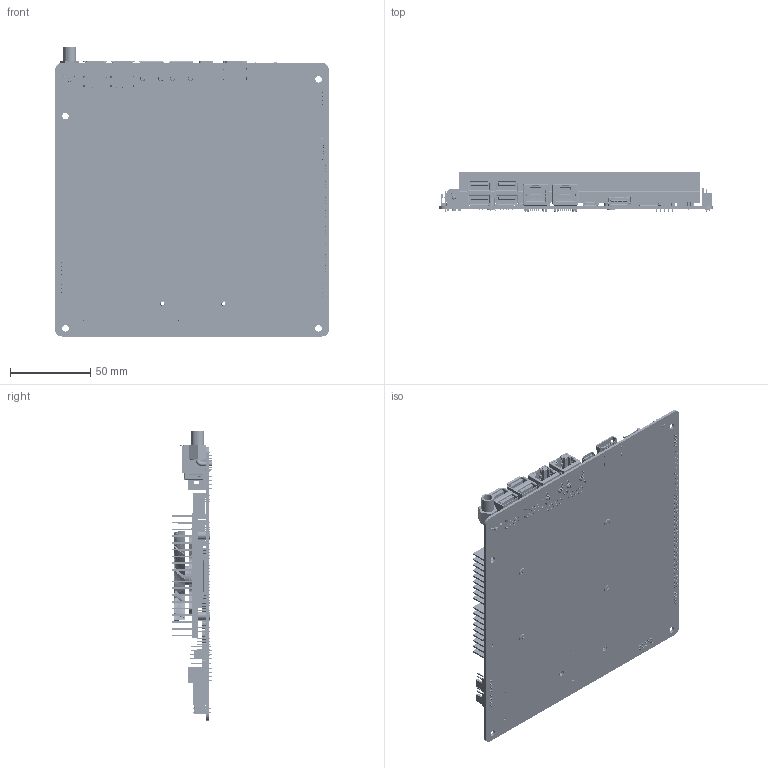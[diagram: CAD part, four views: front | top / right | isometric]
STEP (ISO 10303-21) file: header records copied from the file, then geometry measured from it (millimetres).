
FILE_DESCRIPTION(/* description */ (''),/* implementation_level */ '2;1');
FILE_NAME(/* name */ 'AXE_SBC_mb_asm_2025_0604_stp.stp',/* time_stamp */ '2025-10-20T10:08:51+02:00',/* author */ (''),/* organization */ (''),/* preprocessor_version */ 'ST-DEVELOPER v20',/* originating_system */ 'SIEMENS PLM Software NX2406.5001',/* authorisation */ '');
FILE_SCHEMA (('AUTOMOTIVE_DESIGN { 1 0 10303 214 3 1 1 1 }'));
Products named in the file (35): T6010B_1_2_1_1; T6010B_1_1_1_1; SCREW_M3X4_5L; AXE_AI_THERMAL_PAD; AXE_CPU_THERMAL_PAD; AXE_CPU_HEATSINK; 12018-00171500_FPC_21P_0_3MM; 13020-00107400_NUT_D45_M2_H6_6; 12G150010074_SATA_7P_BLACK; 12006-00050100_HD_1X2P_2MM; 12007-00023200_BOX_HD_2X5P_2_K9; 12006-00690000_HD_2X20P_2MM; 12006-00140000_HD_2X5P_2MM; 12G08030004B_WF_HD_4P_2_5MM; 12G17000004B_WTB_4P_1_25_ACES; 12G0610D0101_HD_2X5P_254MM; 12G17000002B_WTB_2P_1_25MM; 12023-00026200_MICRO_SIM_UP; RK3588_CPU; AXE_AI_CHIP; 12008-00010500_FAN_4P_254MM; 12003-00180500_M2_KEY-B_8_5MM; 12003-00161500_M2_KEY-E_8_5MM; 12023-00100100_MICRO_SD; 12022-00045800_HDMI_FOX; 12013-00176200_TYPE-C_H1_8; 12014-00357000_LANX1_UDE; 12013-00031500_USB30X2_FOX; 12014-00102500_DC_POWER_3P; AXE_MB_BOT_LH; AXE_MB_TOP_LH; AXE_MINI_ITX_PCB; T6010B_1_ASM_1_ASM_1_ASM; AXE_CPU_HEATSINK_COOLER_ASM_ASM; axe_mb_asm_2025_0604_stp
Assembly tree (46 placements, depth 4):
  axe_mb_asm_2025_0604_stp
    AXE_MINI_ITX_PCB
    AXE_MB_TOP_LH
    AXE_MB_BOT_LH
    12014-00102500_DC_POWER_3P
    12013-00031500_USB30X2_FOX  x2
    12014-00357000_LANX1_UDE  x2
    12013-00176200_TYPE-C_H1_8
    12022-00045800_HDMI_FOX
    12023-00100100_MICRO_SD
    12003-00161500_M2_KEY-E_8_5MM
    12003-00180500_M2_KEY-B_8_5MM
    12008-00010500_FAN_4P_254MM  x2
    AXE_CPU_HEATSINK_COOLER_ASM_ASM
      AXE_CPU_HEATSINK
      T6010B_1_ASM_1_ASM_1_ASM
        T6010B_1_1_1_1
        T6010B_1_2_1_1
      AXE_CPU_THERMAL_PAD
      AXE_AI_THERMAL_PAD
      SCREW_M3X4_5L  x4
    AXE_AI_CHIP
    RK3588_CPU
    12023-00026200_MICRO_SIM_UP
    12G17000002B_WTB_2P_1_25MM
    12G0610D0101_HD_2X5P_254MM
    12G17000004B_WTB_4P_1_25_ACES
    12G08030004B_WF_HD_4P_2_5MM  x2
    12006-00140000_HD_2X5P_2MM  x3
    12006-00690000_HD_2X20P_2MM
    12007-00023200_BOX_HD_2X5P_2_K9
    12006-00050100_HD_1X2P_2MM  x2
    12G150010074_SATA_7P_BLACK  x2
    13020-00107400_NUT_D45_M2_H6_6  x2
    12018-00171500_FPC_21P_0_3MM
Bounding box: 170.18 x 25 x 179.83 mm (x, y, z)
Volume: 158667.3 mm3; surface area: 182688.7 mm2
Topology: 56 solids, 168 shells, 19884 faces, 55741 edges, 36379 vertices
Faces by surface type: plane 15786, cylinder 3578, bspline 154, cone 116, torus 116, extrusion 70, sphere 64
Entity records: 563482 total; most frequent: CARTESIAN_POINT 115468, ORIENTED_EDGE 88150, DIRECTION 79590, EDGE_CURVE 44331, VECTOR 35826, LINE 35789, VERTEX_POINT 28993, AXIS2_PLACEMENT_3D 21882
